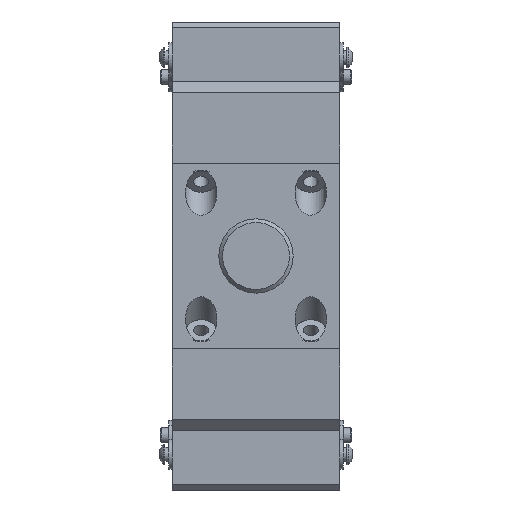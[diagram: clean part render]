
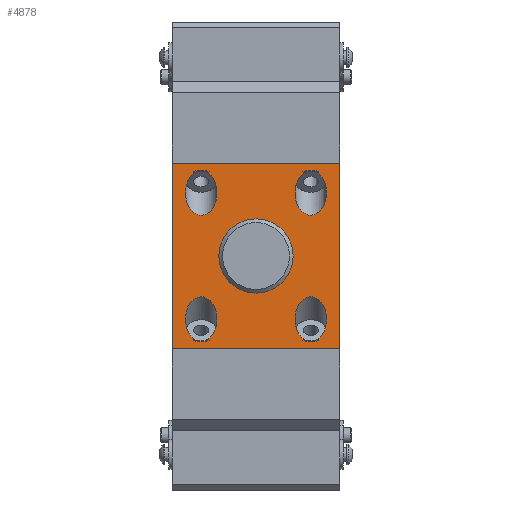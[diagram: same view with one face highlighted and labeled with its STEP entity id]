
A CAD part, front view. The second image highlights one B-rep face of the part: STEP entity #4878.
In plain terms, the highlighted planar face has unit normal (0, -1, 0).
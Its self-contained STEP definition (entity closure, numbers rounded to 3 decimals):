
#194=LINE('',#7635,#498);
#195=LINE('',#7638,#499);
#196=LINE('',#7640,#500);
#197=LINE('',#7642,#501);
#498=VECTOR('',#5951,1000.);
#499=VECTOR('',#5952,1000.);
#500=VECTOR('',#5953,1000.);
#501=VECTOR('',#5954,1000.);
#802=CIRCLE('',#5254,10.);
#1124=ORIENTED_EDGE('',*,*,#2392,.F.);
#1125=ORIENTED_EDGE('',*,*,#2393,.F.);
#1126=ORIENTED_EDGE('',*,*,#2394,.F.);
#1127=ORIENTED_EDGE('',*,*,#2395,.T.);
#1128=ORIENTED_EDGE('',*,*,#2396,.F.);
#1129=ORIENTED_EDGE('',*,*,#2397,.F.);
#1130=ORIENTED_EDGE('',*,*,#2398,.T.);
#1131=ORIENTED_EDGE('',*,*,#2399,.F.);
#1132=ORIENTED_EDGE('',*,*,#2400,.F.);
#2392=EDGE_CURVE('',#3026,#3026,#3516,.F.);
#2393=EDGE_CURVE('',#3027,#3027,#3517,.F.);
#2394=EDGE_CURVE('',#3028,#3028,#802,.F.);
#2395=EDGE_CURVE('',#3029,#3030,#194,.T.);
#2396=EDGE_CURVE('',#3031,#3030,#195,.T.);
#2397=EDGE_CURVE('',#3032,#3031,#196,.T.);
#2398=EDGE_CURVE('',#3032,#3029,#197,.T.);
#2399=EDGE_CURVE('',#3033,#3033,#3518,.F.);
#2400=EDGE_CURVE('',#3034,#3034,#3519,.F.);
#3026=VERTEX_POINT('',#7630);
#3027=VERTEX_POINT('',#7632);
#3028=VERTEX_POINT('',#7634);
#3029=VERTEX_POINT('',#7636);
#3030=VERTEX_POINT('',#7637);
#3031=VERTEX_POINT('',#7639);
#3032=VERTEX_POINT('',#7641);
#3033=VERTEX_POINT('',#7644);
#3034=VERTEX_POINT('',#7646);
#3516=ELLIPSE('',#5252,6.01,4.25);
#3517=ELLIPSE('',#5253,6.01,4.25);
#3518=ELLIPSE('',#5255,6.01,4.25);
#3519=ELLIPSE('',#5256,6.01,4.25);
#3524=EDGE_LOOP('',(#1124));
#3525=EDGE_LOOP('',(#1125));
#3526=EDGE_LOOP('',(#1126));
#3527=EDGE_LOOP('',(#1127,#1128,#1129,#1130));
#3528=EDGE_LOOP('',(#1131));
#3529=EDGE_LOOP('',(#1132));
#4108=FACE_BOUND('',#3524,.T.);
#4109=FACE_BOUND('',#3525,.T.);
#4110=FACE_BOUND('',#3526,.T.);
#4111=FACE_BOUND('',#3527,.T.);
#4112=FACE_BOUND('',#3528,.T.);
#4113=FACE_BOUND('',#3529,.T.);
#4692=PLANE('',#5251);
#4878=ADVANCED_FACE('',(#4108,#4109,#4110,#4111,#4112,#4113),#4692,.F.);
#5251=AXIS2_PLACEMENT_3D('',#7628,#5943,#5944);
#5252=AXIS2_PLACEMENT_3D('',#7629,#5945,#5946);
#5253=AXIS2_PLACEMENT_3D('',#7631,#5947,#5948);
#5254=AXIS2_PLACEMENT_3D('',#7633,#5949,#5950);
#5255=AXIS2_PLACEMENT_3D('',#7643,#5955,#5956);
#5256=AXIS2_PLACEMENT_3D('',#7645,#5957,#5958);
#5943=DIRECTION('',(0.,1.,0.));
#5944=DIRECTION('',(0.,0.,1.));
#5945=DIRECTION('',(0.,1.,0.));
#5946=DIRECTION('',(0.,0.,-1.));
#5947=DIRECTION('',(0.,1.,0.));
#5948=DIRECTION('',(0.,0.,-1.));
#5949=DIRECTION('',(0.,1.,0.));
#5950=DIRECTION('',(0.,0.,1.));
#5951=DIRECTION('',(0.,0.,-1.));
#5952=DIRECTION('',(-1.,0.,0.));
#5953=DIRECTION('',(0.,0.,-1.));
#5954=DIRECTION('',(-1.,0.,0.));
#5955=DIRECTION('',(0.,1.,0.));
#5956=DIRECTION('',(0.,0.,-1.));
#5957=DIRECTION('',(0.,1.,0.));
#5958=DIRECTION('',(0.,0.,-1.));
#7628=CARTESIAN_POINT('',(22.5,-55.,25.));
#7629=CARTESIAN_POINT('',(-14.75,-55.,-17.));
#7630=CARTESIAN_POINT('',(-14.75,-55.,-23.01));
#7631=CARTESIAN_POINT('',(14.75,-55.,17.));
#7632=CARTESIAN_POINT('',(14.75,-55.,10.99));
#7633=CARTESIAN_POINT('',(0.,-55.,0.));
#7634=CARTESIAN_POINT('',(0.,-55.,10.));
#7635=CARTESIAN_POINT('',(-22.5,-55.,25.));
#7636=CARTESIAN_POINT('',(-22.5,-55.,25.));
#7637=CARTESIAN_POINT('',(-22.5,-55.,-25.));
#7638=CARTESIAN_POINT('',(22.5,-55.,-25.));
#7639=CARTESIAN_POINT('',(22.5,-55.,-25.));
#7640=CARTESIAN_POINT('',(22.5,-55.,25.));
#7641=CARTESIAN_POINT('',(22.5,-55.,25.));
#7642=CARTESIAN_POINT('',(22.5,-55.,25.));
#7643=CARTESIAN_POINT('',(14.75,-55.,-17.));
#7644=CARTESIAN_POINT('',(14.75,-55.,-23.01));
#7645=CARTESIAN_POINT('',(-14.75,-55.,17.));
#7646=CARTESIAN_POINT('',(-14.75,-55.,10.99));
